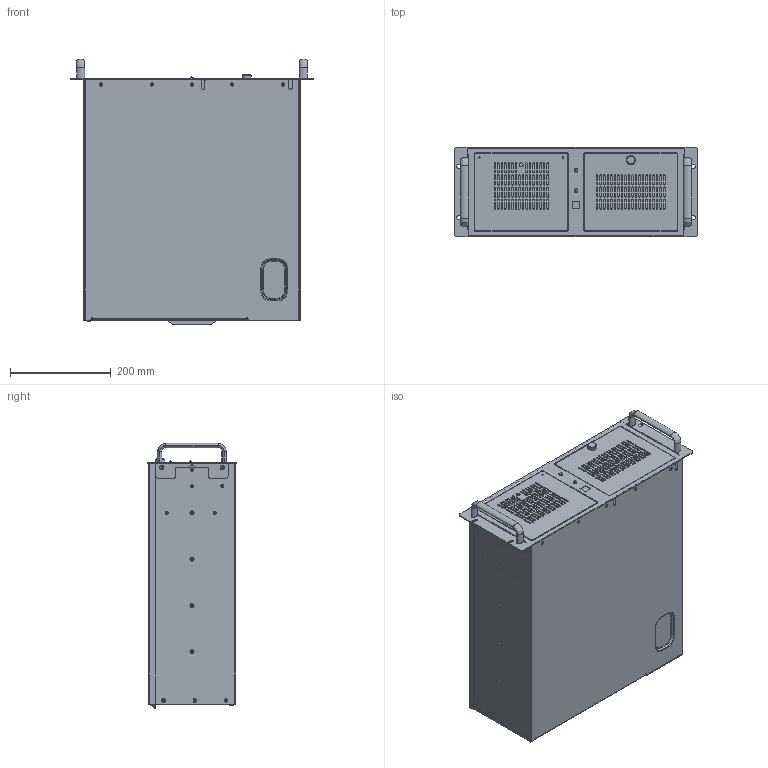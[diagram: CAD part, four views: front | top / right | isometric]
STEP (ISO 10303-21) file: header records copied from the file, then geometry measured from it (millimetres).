
FILE_DESCRIPTION (( 'STEP AP203' ), '1' );
FILE_NAME ('ipc-610 20190618.STEP', '2019-06-18T08:22:33', ( '' ), ( '' ), 'SwSTEP 2.0', 'SolidWorks 2018', '' );
FILE_SCHEMA (( 'CONFIG_CONTROL_DESIGN' ));
Length unit declared in the file: millimetre
Products named in the file (1): ipc-610 20190618
Bounding box: 482 x 177.05 x 526.65 mm (x, y, z)
Volume: 34564292.6 mm3; surface area: 809374.5 mm2
Topology: 1 solids, 1 shells, 2639 faces, 6859 edges, 4493 vertices
Faces by surface type: plane 1562, cylinder 842, cone 139, torus 54, bspline 40, sphere 2
Entity records: 87716 total; most frequent: CARTESIAN_POINT 22251, ORIENTED_EDGE 13706, DIRECTION 13386, EDGE_CURVE 6853, VERTEX_POINT 4489, LINE 4484, VECTOR 4484, AXIS2_PLACEMENT_3D 4451
